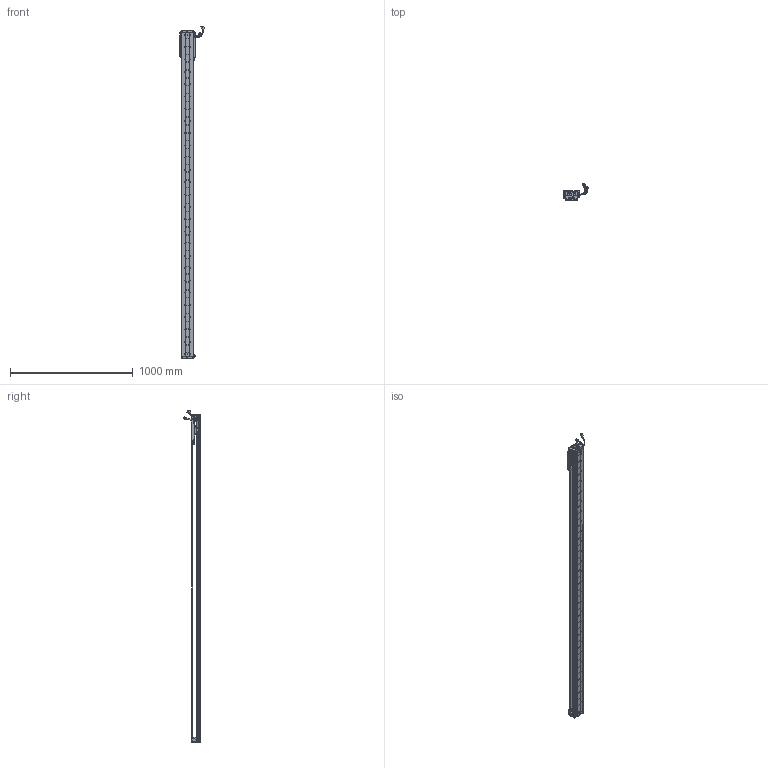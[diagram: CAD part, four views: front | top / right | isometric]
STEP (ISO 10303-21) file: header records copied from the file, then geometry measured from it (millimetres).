
FILE_DESCRIPTION (( 'STEP AP203' ), '1' );
FILE_NAME ('Z2-RY100D-1-L500-B-K.SLDASM_2400.step', '2021-05-17T02:37:48', ( '盈信电脑' ), ( '东莞市道滘镇水果街19号' ), 'SwSTEP 2.0', 'SolidWorks 2016', '' );
FILE_SCHEMA (( 'CONFIG_CONTROL_DESIGN' ));
Length unit declared in the file: millimetre
Products named in the file (36): SCREW-M1.6; HARNESS-Part-2; Z-RY100D覜茼んえ; SCREW-M1.6-3; 覜茼ん672; HARNESS; 100-Z-臏賑輸盄裔(21遴); COVER-Part-1; PBU_SHEET; 140蚥薯蝶輸; SCREW-M1.6-2; Z-RY100D詩湍狟揤裔; SCREW-M1.6-1; SCREW-M1.7-1; Z2-RY100-L500詩湍90mm遵_2400; SCALE-Part-2; Z2-RY100D-500-倰第菁釱_2400; SEAL; SHIELDPLATE; 榋妏寠巭燃_暯_M2_2; Z2-RY100铝滑块（21款）; 080黍杅芛假蚾釱21遴; HOLDER0; PSLH080_PSLF2; HARNESS-Part-1; 140雄赽晤鎢ん堤盄; Z-100詩湍傷裔啣; LABEL-Part-1; Z2-RY100D-1-L500-B-K.SLDASM_2400; LABEL; Z-RY100D詩湍奻揤裔; SCREW-M1.7; COVER; SCALE-Part-1; SEAL-Part-1; SCALE
Assembly tree (43 placements, depth 4):
  Z2-RY100D-1-L500-B-K.SLDASM_2400
    Z2-RY100D-500-倰第菁釱_2400
    Z2-RY100铝滑块（21款）
    PSLH080_PSLF2
      SCALE
        SCALE-Part-1
        SCALE-Part-2
      HARNESS
        HARNESS-Part-1
        HARNESS-Part-2
      LABEL
        LABEL-Part-1
      COVER
        COVER-Part-1
      SEAL
        SEAL-Part-1
      榋妏寠巭燃_暯_M2_2
      SHIELDPLATE
      SCREW-M1.7
      SCREW-M1.7-1
      PBU_SHEET
      SCREW-M1.6
      SCREW-M1.6-1
      SCREW-M1.6-2
      SCREW-M1.6-3
      HOLDER0
    080黍杅芛假蚾釱21遴
    Z-100詩湍傷裔啣  x2
    140蚥薯蝶輸  x2
    覜茼ん672  x3
    Z-RY100D覜茼んえ  x3
    100-Z-臏賑輸盄裔(21遴)
    140雄赽晤鎢ん堤盄
    Z2-RY100-L500詩湍90mm遵_2400
    Z-RY100D詩湍狟揤裔  x2
    Z-RY100D詩湍奻揤裔  x2
Bounding box: 205.79 x 136.11 x 2705.43 mm (x, y, z)
Volume: 4849389 mm3; surface area: 1926351.4 mm2
Topology: 38 solids, 38 shells, 3000 faces, 8199 edges, 5240 vertices
Faces by surface type: cylinder 1474, plane 1186, cone 218, torus 69, bspline 53
Entity records: 87003 total; most frequent: CARTESIAN_POINT 18252, DIRECTION 14015, ORIENTED_EDGE 13294, EDGE_CURVE 6647, AXIS2_PLACEMENT_3D 5267, VERTEX_POINT 4308, VECTOR 3481, LINE 3481
